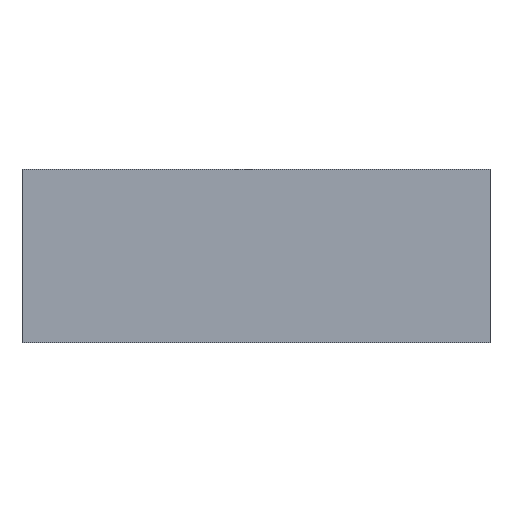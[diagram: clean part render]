
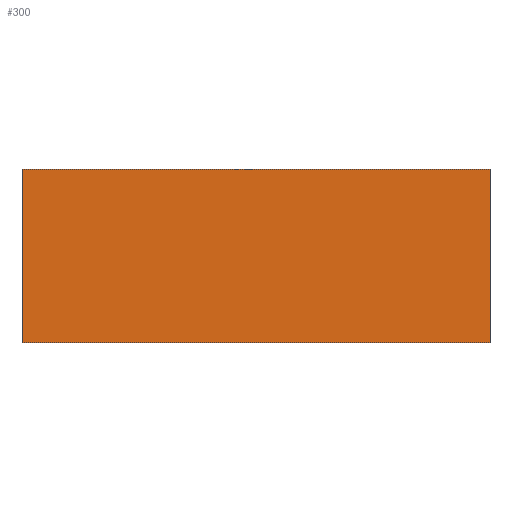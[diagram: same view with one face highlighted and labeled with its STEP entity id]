
A CAD part, front view. The second image highlights one B-rep face of the part: STEP entity #300.
In plain terms, the highlighted planar face has unit normal (0, -1, 0).
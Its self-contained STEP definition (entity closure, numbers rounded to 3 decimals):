
#32 = CARTESIAN_POINT ( 'NONE',  ( 0., 0., -10. ) ) ;
#36 = ORIENTED_EDGE ( 'NONE', *, *, #1274, .T. ) ;
#173 = DIRECTION ( 'NONE',  ( 1., 0., 0. ) ) ;
#215 = EDGE_CURVE ( 'NONE', #897, #2414, #1902, .T. ) ;
#232 = VECTOR ( 'NONE', #2444, 1000. ) ;
#240 = CARTESIAN_POINT ( 'NONE',  ( 26.987, 0., 0. ) ) ;
#258 = PLANE ( 'NONE',  #808 ) ;
#299 = ORIENTED_EDGE ( 'NONE', *, *, #368, .F. ) ;
#300 = ADVANCED_FACE ( 'NONE', ( #922 ), #258, .T. ) ;
#368 = EDGE_CURVE ( 'NONE', #1140, #2724, #905, .T. ) ;
#426 = LINE ( 'NONE', #863, #907 ) ;
#718 = CARTESIAN_POINT ( 'NONE',  ( 0., 0., -10. ) ) ;
#808 = AXIS2_PLACEMENT_3D ( 'NONE', #2234, #1328, #2201 ) ;
#863 = CARTESIAN_POINT ( 'NONE',  ( 0., 0., 0. ) ) ;
#897 = VERTEX_POINT ( 'NONE', #1709 ) ;
#905 = LINE ( 'NONE', #32, #2473 ) ;
#907 = VECTOR ( 'NONE', #173, 1000. ) ;
#922 = FACE_OUTER_BOUND ( 'NONE', #1752, .T. ) ;
#1014 = ORIENTED_EDGE ( 'NONE', *, *, #1560, .F. ) ;
#1140 = VERTEX_POINT ( 'NONE', #718 ) ;
#1269 = CARTESIAN_POINT ( 'NONE',  ( 0., 0., 0. ) ) ;
#1274 = EDGE_CURVE ( 'NONE', #1140, #897, #1813, .T. ) ;
#1326 = ORIENTED_EDGE ( 'NONE', *, *, #215, .T. ) ;
#1328 = DIRECTION ( 'NONE',  ( 0., -1., 0. ) ) ;
#1438 = VECTOR ( 'NONE', #2363, 1000. ) ;
#1560 = EDGE_CURVE ( 'NONE', #2724, #2414, #426, .T. ) ;
#1592 = CARTESIAN_POINT ( 'NONE',  ( 0., 0., -10. ) ) ;
#1709 = CARTESIAN_POINT ( 'NONE',  ( 26.987, 0., -10. ) ) ;
#1752 = EDGE_LOOP ( 'NONE', ( #1014, #299, #36, #1326 ) ) ;
#1813 = LINE ( 'NONE', #1592, #232 ) ;
#1902 = LINE ( 'NONE', #2562, #1438 ) ;
#2201 = DIRECTION ( 'NONE',  ( 0., 0., -1. ) ) ;
#2234 = CARTESIAN_POINT ( 'NONE',  ( 0., 0., -10. ) ) ;
#2363 = DIRECTION ( 'NONE',  ( 0., 0., 1. ) ) ;
#2414 = VERTEX_POINT ( 'NONE', #240 ) ;
#2444 = DIRECTION ( 'NONE',  ( 1., 0., 0. ) ) ;
#2473 = VECTOR ( 'NONE', #2636, 1000. ) ;
#2562 = CARTESIAN_POINT ( 'NONE',  ( 26.987, 0., -10. ) ) ;
#2636 = DIRECTION ( 'NONE',  ( 0., 0., 1. ) ) ;
#2724 = VERTEX_POINT ( 'NONE', #1269 ) ;
